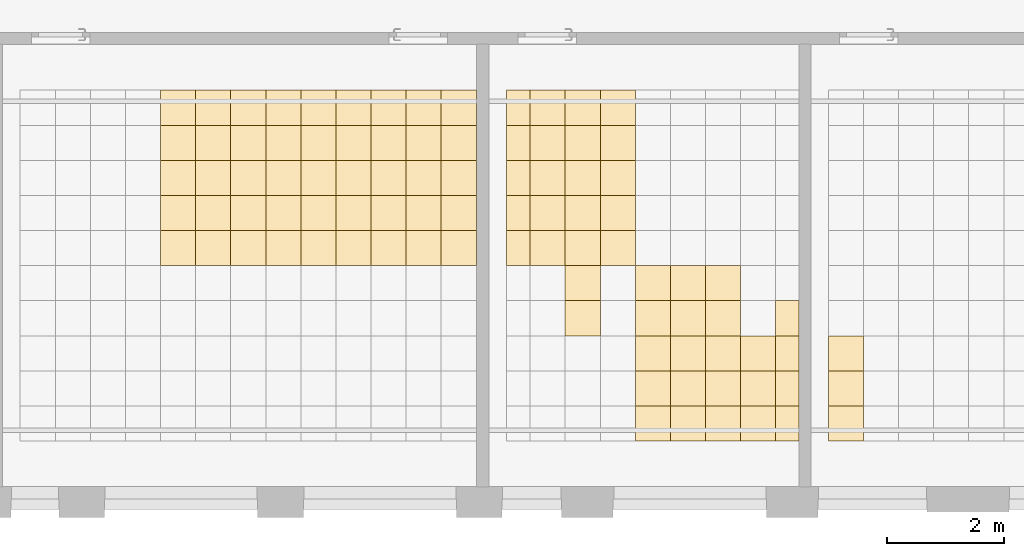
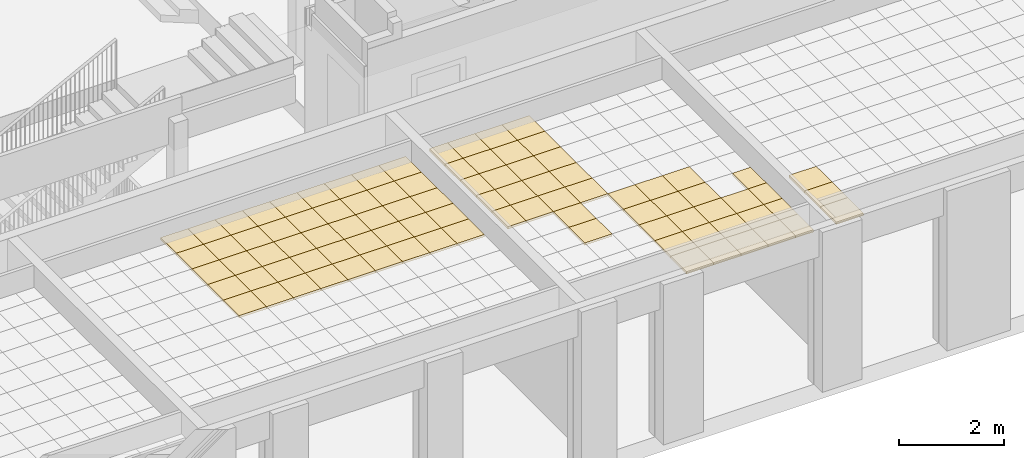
# One storey, part 72 of 79: 92 coverings.
"""IFC2X3 building model written with IfcOpenShell, lengths in millimetres."""

from ifc_helpers import new_model, entity, si_unit, converted_unit, derived_unit, money_unit, direction, frame, origin_with_axes, place, context, subcontext, project, spatial, faceted_brep, material, material_list, type_object, element, save


model = new_model("IFC2X3")

# Units and contexts
model_context = context("Model", 3, precision=0.01, world=origin_with_axes(), true_north=direction((0.0, 1.0)))
body_context = subcontext(model_context, "Body", "Model", "MODEL_VIEW")
ifc_project = project(units=[si_unit("LENGTHUNIT", "METRE", prefix="MILLI"), si_unit("AREAUNIT", "SQUARE_METRE"), si_unit("VOLUMEUNIT", "CUBIC_METRE"), converted_unit("PLANEANGLEUNIT", "DEGREE", entity("IfcPlaneAngleMeasure", 0.0174532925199), si_unit("PLANEANGLEUNIT", "RADIAN"), dimensions=[0, 0, 0, 0, 0, 0, 0]), si_unit("SOLIDANGLEUNIT", "STERADIAN"), money_unit("EUR"), converted_unit("TIMEUNIT", "Year", entity("IfcTimeMeasure", 31556926.0), si_unit("TIMEUNIT", "SECOND"), dimensions=[0, 0, 1, 0, 0, 0, 0]), si_unit("MASSUNIT", "GRAM", prefix="KILO"), si_unit("THERMODYNAMICTEMPERATUREUNIT", "DEGREE_CELSIUS"), si_unit("LUMINOUSINTENSITYUNIT", "LUMEN"), si_unit("ENERGYUNIT", "JOULE", prefix="MEGA"), derived_unit("THERMALCONDUCTANCEUNIT", [(si_unit("POWERUNIT", "WATT"), 1), (si_unit("LENGTHUNIT", "METRE"), -1), (si_unit("THERMODYNAMICTEMPERATUREUNIT", "KELVIN"), -1)]), derived_unit("SPECIFICHEATCAPACITYUNIT", [(si_unit("ENERGYUNIT", "JOULE"), 1), (si_unit("MASSUNIT", "GRAM", prefix="KILO"), -1), (si_unit("THERMODYNAMICTEMPERATUREUNIT", "KELVIN"), -1)]), derived_unit("MASSDENSITYUNIT", [(si_unit("MASSUNIT", "GRAM", prefix="KILO"), 1), (si_unit("VOLUMEUNIT", "CUBIC_METRE"), -1)])], contexts=[model_context])

# Site, building, storey
site_placement = place(None, origin_with_axes())
site = spatial("IfcSite", under=ifc_project, at=site_placement, Name="L.Koidula tn 11b", CompositionType="ELEMENT")
building_placement = place(site_placement, origin_with_axes())
building = spatial("IfcBuilding", under=site, at=building_placement, Name="Rakvere Riigigümnaasium", CompositionType="ELEMENT")
storey_placement = place(building_placement, frame((0.0, 0.0, 3720.0), z_axis=(0.0, 0.0, 1.0), x_axis=(1.0, 0.0, 0.0)))
storey = spatial("IfcBuildingStorey", under=building, at=storey_placement, Name="2.korrus +3,72", CompositionType="ELEMENT", Elevation=3720.0)

# Coverings
ifc_material_1 = material(Name="Karkass")
ifc_material_2 = material(Name="Kipsplaat")
ifc_material_list = material_list([ifc_material_1, ifc_material_2])
covering_type = type_object("IfcCoveringType", Name="SA-LV-Kips-moodul 55", PredefinedType="CEILING")
for number, where, z_axis, x_axis, name in (
    (1, (70449.7152217, 11090.4535941, 2750.0), (0.0, 0.0, 1.0), (1.0, 0.0, 0.0), "L-03"),
    (2, (71649.7151701, 9890.45359412, 2750.0), (0.0, 0.0, 1.0), (1.0, 0.0, 0.0), "L-03"),
    (3, (72849.7151184, 11690.4535941, 2750.0), (0.0, 0.0, 1.0), (1.0, 0.0, 0.0), "L-03"),
    (4, (72849.7151184, 9890.45359412, 2750.0), (0.0, 0.0, 1.0), (1.0, 0.0, 0.0), "L-03"),
    (5, (72849.7151184, 9290.45359412, 2750.0), (0.0, 0.0, 1.0), (1.0, 0.0, 0.0), "L-03"),
    (6, (74049.7150668, 9290.45359412, 2750.0), (0.0, 0.0, 1.0), (1.0, 0.0, 0.0), "L-03"),
    (7, (74049.7150668, 11090.4535941, 2750.0), (0.0, 0.0, 1.0), (1.0, 0.0, 0.0), "L-03"),
    (8, (74049.7150668, 9890.45359412, 2750.0), (0.0, 0.0, 1.0), (1.0, 0.0, 0.0), "L-03"),
    (9, (74049.7150668, 11690.4535941, 2750.0), (0.0, 0.0, 1.0), (1.0, 0.0, 0.0), "L-03"),
    (10, (74049.7150668, 10490.4535941, 2750.0), (0.0, 0.0, 1.0), (1.0, 0.0, 0.0), "L-03"),
):
    element("IfcCovering", number, at=place(storey_placement, frame(where, z_axis=z_axis, x_axis=x_axis)), inside=storey, type_object=covering_type, material=ifc_material_list, Name=name, PredefinedType="CEILING", context=body_context, shape_type="Brep", body=[
        faceted_brep([(600.0, 0.0, 12.5), (600.0, 0.0, 54.5), (0.0, 0.0, 54.5), (0.0, 0.0, 12.5), (600.0, 600.0, 12.5), (600.0, 600.0, 54.5), (0.0, 600.0, 54.5), (0.0, 600.0, 12.5)], [[[0, 1, 2, 3]], [[4, 5, 1, 0]], [[2, 1, 5, 6]], [[3, 2, 6, 7]], [[3, 7, 4, 0]], [[7, 6, 5, 4]]]),
        faceted_brep([(0.0, 0.0, 0.0), (600.0, 0.0, 0.0), (600.0, 0.0, 12.5), (0.0, 0.0, 12.5), (0.0, 600.0, 0.0), (600.0, 600.0, 0.0), (600.0, 600.0, 12.5), (0.0, 600.0, 12.5)], [[[0, 1, 2, 3]], [[0, 4, 5, 1]], [[1, 5, 6, 2]], [[3, 2, 6, 7]], [[4, 0, 3, 7]], [[5, 4, 7, 6]]]),
    ])
covering_1_placement = place(storey_placement, frame((73449.7151184, 11690.4535941, 2750.0), z_axis=(0.0, 0.0, 1.0), x_axis=(1.0, 0.0, 0.0)))
element("IfcCovering", 11, at=covering_1_placement, inside=storey, type_object=covering_type, material=ifc_material_list, Name="L-03", PredefinedType="CEILING", context=body_context, shape_type="Brep", body=[
    faceted_brep([(599.999948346, 0.0, 12.5), (599.999948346, 0.0, 54.5), (0.0, 0.0, 54.5), (0.0, 0.0, 12.5), (599.999948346, 600.0, 12.5), (599.999948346, 600.0, 54.5), (0.0, 600.0, 54.5), (0.0, 600.0, 12.5)], [[[0, 1, 2, 3]], [[4, 5, 1, 0]], [[2, 1, 5, 6]], [[3, 2, 6, 7]], [[3, 7, 4, 0]], [[7, 6, 5, 4]]]),
    faceted_brep([(0.0, 0.0, 0.0), (599.999948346, 0.0, 0.0), (599.999948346, 0.0, 12.5), (0.0, 0.0, 12.5), (0.0, 600.0, 0.0), (599.999948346, 600.0, 0.0), (599.999948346, 600.0, 12.5), (0.0, 600.0, 12.5)], [[[0, 1, 2, 3]], [[0, 4, 5, 1]], [[1, 5, 6, 2]], [[3, 2, 6, 7]], [[4, 0, 3, 7]], [[5, 4, 7, 6]]]),
])
covering_2_placement = place(storey_placement, frame((72849.7151184, 10490.4535941, 2750.0), z_axis=(0.0, 0.0, 1.0), x_axis=(1.0, 0.0, 0.0)))
element("IfcCovering", 12, at=covering_2_placement, inside=storey, type_object=covering_type, material=ifc_material_list, Name="L-03", PredefinedType="CEILING", context=body_context, shape_type="Brep", body=[
    faceted_brep([(600.0, 0.0, 12.5), (600.0, 0.0, 54.5), (0.0, 0.0, 54.5), (0.0, 0.0, 12.5), (600.0, 600.0, 12.5), (600.0, 600.0, 54.5), (0.0, 600.0, 54.5), (0.0, 600.0, 12.5)], [[[0, 1, 2, 3]], [[4, 5, 1, 0]], [[2, 1, 5, 6]], [[3, 2, 6, 7]], [[3, 7, 4, 0]], [[7, 6, 5, 4]]]),
    faceted_brep([(0.0, 0.0, 0.0), (600.0, 0.0, 0.0), (600.0, 0.0, 12.5), (0.0, 0.0, 12.5), (0.0, 600.0, 0.0), (600.0, 600.0, 0.0), (600.0, 600.0, 12.5), (0.0, 600.0, 12.5)], [[[0, 1, 2, 3]], [[0, 4, 5, 1]], [[1, 5, 6, 2]], [[3, 2, 6, 7]], [[4, 0, 3, 7]], [[5, 4, 7, 6]]]),
])
for number, where, z_axis, x_axis, name in (
    (13, (73449.7151184, 9290.45359412, 2750.0), (0.0, 0.0, 1.0), (1.0, 0.0, 0.0), "L-03"),
    (14, (73449.7151184, 9890.45359412, 2750.0), (0.0, 0.0, 1.0), (1.0, 0.0, 0.0), "L-03"),
    (15, (73449.7151184, 11090.4535941, 2750.0), (0.0, 0.0, 1.0), (1.0, 0.0, 0.0), "L-03"),
    (16, (73449.7151184, 10490.4535941, 2750.0), (0.0, 0.0, 1.0), (1.0, 0.0, 0.0), "L-03"),
):
    element("IfcCovering", number, at=place(storey_placement, frame(where, z_axis=z_axis, x_axis=x_axis)), inside=storey, type_object=covering_type, material=ifc_material_list, Name=name, PredefinedType="CEILING", context=body_context, shape_type="Brep", body=[
        faceted_brep([(599.999948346, 0.0, 12.5), (599.999948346, 0.0, 54.5), (0.0, 0.0, 54.5), (0.0, 0.0, 12.5), (599.999948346, 600.0, 12.5), (599.999948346, 600.0, 54.5), (0.0, 600.0, 54.5), (0.0, 600.0, 12.5)], [[[0, 1, 2, 3]], [[4, 5, 1, 0]], [[2, 1, 5, 6]], [[3, 2, 6, 7]], [[3, 7, 4, 0]], [[7, 6, 5, 4]]]),
        faceted_brep([(0.0, 0.0, 0.0), (599.999948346, 0.0, 0.0), (599.999948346, 0.0, 12.5), (0.0, 0.0, 12.5), (0.0, 600.0, 0.0), (599.999948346, 600.0, 0.0), (599.999948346, 600.0, 12.5), (0.0, 600.0, 12.5)], [[[0, 1, 2, 3]], [[0, 4, 5, 1]], [[1, 5, 6, 2]], [[3, 2, 6, 7]], [[4, 0, 3, 7]], [[5, 4, 7, 6]]]),
    ])
for number, where, z_axis, x_axis, name in (
    (17, (71649.7151701, 9290.45359412, 2750.0), (0.0, 0.0, 1.0), (1.0, 0.0, 0.0), "L-03"),
    (18, (72849.7151184, 11090.4535941, 2750.0), (0.0, 0.0, 1.0), (1.0, 0.0, 0.0), "L-03"),
    (19, (71649.7151701, 11690.4535941, 2750.0), (0.0, 0.0, 1.0), (1.0, 0.0, 0.0), "L-03"),
    (20, (71649.7151701, 11090.4535941, 2750.0), (0.0, 0.0, 1.0), (1.0, 0.0, 0.0), "L-03"),
    (21, (71649.7151701, 10490.4535941, 2750.0), (0.0, 0.0, 1.0), (1.0, 0.0, 0.0), "L-03"),
):
    element("IfcCovering", number, at=place(storey_placement, frame(where, z_axis=z_axis, x_axis=x_axis)), inside=storey, type_object=covering_type, material=ifc_material_list, Name=name, PredefinedType="CEILING", context=body_context, shape_type="Brep", body=[
        faceted_brep([(600.0, 0.0, 12.5), (600.0, 0.0, 54.5), (0.0, 0.0, 54.5), (0.0, 0.0, 12.5), (600.0, 600.0, 12.5), (600.0, 600.0, 54.5), (0.0, 600.0, 54.5), (0.0, 600.0, 12.5)], [[[0, 1, 2, 3]], [[4, 5, 1, 0]], [[2, 1, 5, 6]], [[3, 2, 6, 7]], [[3, 7, 4, 0]], [[7, 6, 5, 4]]]),
        faceted_brep([(0.0, 0.0, 0.0), (600.0, 0.0, 0.0), (600.0, 0.0, 12.5), (0.0, 0.0, 12.5), (0.0, 600.0, 0.0), (600.0, 600.0, 0.0), (600.0, 600.0, 12.5), (0.0, 600.0, 12.5)], [[[0, 1, 2, 3]], [[0, 4, 5, 1]], [[1, 5, 6, 2]], [[3, 2, 6, 7]], [[4, 0, 3, 7]], [[5, 4, 7, 6]]]),
    ])
for number, where, z_axis, x_axis, name in (
    (22, (69849.7152734, 11690.4535941, 2750.0), (0.0, 0.0, 1.0), (1.0, 0.0, 0.0), "L-03"),
    (23, (72249.7151701, 11690.4535941, 2750.0), (0.0, 0.0, 1.0), (1.0, 0.0, 0.0), "L-03"),
    (24, (69849.7152734, 9290.45359412, 2750.0), (0.0, 0.0, 1.0), (1.0, 0.0, 0.0), "L-03"),
    (25, (69849.7152734, 9890.45359412, 2750.0), (0.0, 0.0, 1.0), (1.0, 0.0, 0.0), "L-03"),
    (26, (69849.7152734, 11090.4535941, 2750.0), (0.0, 0.0, 1.0), (1.0, 0.0, 0.0), "L-03"),
    (27, (69849.7152734, 10490.4535941, 2750.0), (0.0, 0.0, 1.0), (1.0, 0.0, 0.0), "L-03"),
    (28, (72249.7151701, 9290.45359412, 2750.0), (0.0, 0.0, 1.0), (1.0, 0.0, 0.0), "L-03"),
    (29, (72249.7151701, 9890.45359412, 2750.0), (0.0, 0.0, 1.0), (1.0, 0.0, 0.0), "L-03"),
    (30, (72249.7151701, 10490.4535941, 2750.0), (0.0, 0.0, 1.0), (1.0, 0.0, 0.0), "L-03"),
    (31, (72249.7151701, 11090.4535941, 2750.0), (0.0, 0.0, 1.0), (1.0, 0.0, 0.0), "L-03"),
    (32, (71049.7152217, 11090.4535941, 2750.0), (0.0, 0.0, 1.0), (1.0, 0.0, 0.0), "L-03"),
):
    element("IfcCovering", number, at=place(storey_placement, frame(where, z_axis=z_axis, x_axis=x_axis)), inside=storey, type_object=covering_type, material=ifc_material_list, Name=name, PredefinedType="CEILING", context=body_context, shape_type="Brep", body=[
        faceted_brep([(599.999948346, 0.0, 12.5), (599.999948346, 0.0, 54.5), (0.0, 0.0, 54.5), (0.0, 0.0, 12.5), (599.999948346, 600.0, 12.5), (599.999948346, 600.0, 54.5), (0.0, 600.0, 54.5), (0.0, 600.0, 12.5)], [[[0, 1, 2, 3]], [[4, 5, 1, 0]], [[2, 1, 5, 6]], [[3, 2, 6, 7]], [[3, 7, 4, 0]], [[7, 6, 5, 4]]]),
        faceted_brep([(0.0, 0.0, 0.0), (599.999948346, 0.0, 0.0), (599.999948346, 0.0, 12.5), (0.0, 0.0, 12.5), (0.0, 600.0, 0.0), (599.999948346, 600.0, 0.0), (599.999948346, 600.0, 12.5), (0.0, 600.0, 12.5)], [[[0, 1, 2, 3]], [[0, 4, 5, 1]], [[1, 5, 6, 2]], [[3, 2, 6, 7]], [[4, 0, 3, 7]], [[5, 4, 7, 6]]]),
    ])
for number, where, z_axis, x_axis, name in (
    (33, (70449.7152217, 11690.4535941, 2750.0), (0.0, 0.0, 1.0), (1.0, 0.0, 0.0), "L-03"),
    (34, (70449.7152217, 9890.45359412, 2750.0), (0.0, 0.0, 1.0), (1.0, 0.0, 0.0), "L-03"),
    (35, (70449.7152217, 10490.4535941, 2750.0), (0.0, 0.0, 1.0), (1.0, 0.0, 0.0), "L-03"),
):
    element("IfcCovering", number, at=place(storey_placement, frame(where, z_axis=z_axis, x_axis=x_axis)), inside=storey, type_object=covering_type, material=ifc_material_list, Name=name, PredefinedType="CEILING", context=body_context, shape_type="Brep", body=[
        faceted_brep([(600.0, 0.0, 12.5), (600.0, 0.0, 54.5), (0.0, 0.0, 54.5), (0.0, 0.0, 12.5), (600.0, 600.0, 12.5), (600.0, 600.0, 54.5), (0.0, 600.0, 54.5), (0.0, 600.0, 12.5)], [[[0, 1, 2, 3]], [[4, 5, 1, 0]], [[2, 1, 5, 6]], [[3, 2, 6, 7]], [[3, 7, 4, 0]], [[7, 6, 5, 4]]]),
        faceted_brep([(0.0, 0.0, 0.0), (600.0, 0.0, 0.0), (600.0, 0.0, 12.5), (0.0, 0.0, 12.5), (0.0, 600.0, 0.0), (600.0, 600.0, 0.0), (600.0, 600.0, 12.5), (0.0, 600.0, 12.5)], [[[0, 1, 2, 3]], [[0, 4, 5, 1]], [[1, 5, 6, 2]], [[3, 2, 6, 7]], [[4, 0, 3, 7]], [[5, 4, 7, 6]]]),
    ])
covering_3_placement = place(storey_placement, frame((71049.7152217, 10490.4535941, 2750.0), z_axis=(0.0, 0.0, 1.0), x_axis=(1.0, 0.0, 0.0)))
element("IfcCovering", 36, at=covering_3_placement, inside=storey, type_object=covering_type, material=ifc_material_list, Name="L-03", PredefinedType="CEILING", context=body_context, shape_type="Brep", body=[
    faceted_brep([(599.999948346, 0.0, 12.5), (599.999948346, 0.0, 54.5), (0.0, 0.0, 54.5), (0.0, 0.0, 12.5), (599.999948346, 600.0, 12.5), (599.999948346, 600.0, 54.5), (0.0, 600.0, 54.5), (0.0, 600.0, 12.5)], [[[0, 1, 2, 3]], [[4, 5, 1, 0]], [[2, 1, 5, 6]], [[3, 2, 6, 7]], [[3, 7, 4, 0]], [[7, 6, 5, 4]]]),
    faceted_brep([(0.0, 0.0, 0.0), (599.999948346, 0.0, 0.0), (599.999948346, 0.0, 12.5), (0.0, 0.0, 12.5), (0.0, 600.0, 0.0), (599.999948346, 600.0, 0.0), (599.999948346, 600.0, 12.5), (0.0, 600.0, 12.5)], [[[0, 1, 2, 3]], [[0, 4, 5, 1]], [[1, 5, 6, 2]], [[3, 2, 6, 7]], [[4, 0, 3, 7]], [[5, 4, 7, 6]]]),
])
for number, where, z_axis, x_axis, name in (
    (37, (70449.7152217, 9290.45359412, 2750.0), (0.0, 0.0, 1.0), (1.0, 0.0, 0.0), "L-03"),
    (38, (69249.7152734, 11690.4535941, 2750.0), (0.0, 0.0, 1.0), (1.0, 0.0, 0.0), "L-03"),
):
    element("IfcCovering", number, at=place(storey_placement, frame(where, z_axis=z_axis, x_axis=x_axis)), inside=storey, type_object=covering_type, material=ifc_material_list, Name=name, PredefinedType="CEILING", context=body_context, shape_type="Brep", body=[
        faceted_brep([(600.0, 0.0, 12.5), (600.0, 0.0, 54.5), (0.0, 0.0, 54.5), (0.0, 0.0, 12.5), (600.0, 600.0, 12.5), (600.0, 600.0, 54.5), (0.0, 600.0, 54.5), (0.0, 600.0, 12.5)], [[[0, 1, 2, 3]], [[4, 5, 1, 0]], [[2, 1, 5, 6]], [[3, 2, 6, 7]], [[3, 7, 4, 0]], [[7, 6, 5, 4]]]),
        faceted_brep([(0.0, 0.0, 0.0), (600.0, 0.0, 0.0), (600.0, 0.0, 12.5), (0.0, 0.0, 12.5), (0.0, 600.0, 0.0), (600.0, 600.0, 0.0), (600.0, 600.0, 12.5), (0.0, 600.0, 12.5)], [[[0, 1, 2, 3]], [[0, 4, 5, 1]], [[1, 5, 6, 2]], [[3, 2, 6, 7]], [[4, 0, 3, 7]], [[5, 4, 7, 6]]]),
    ])
covering_4_placement = place(storey_placement, frame((71049.7152217, 9290.45359412, 2750.0), z_axis=(0.0, 0.0, 1.0), x_axis=(1.0, 0.0, 0.0)))
element("IfcCovering", 39, at=covering_4_placement, inside=storey, type_object=covering_type, material=ifc_material_list, Name="L-03", PredefinedType="CEILING", context=body_context, shape_type="Brep", body=[
    faceted_brep([(599.999948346, 0.0, 12.5), (599.999948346, 0.0, 54.5), (0.0, 0.0, 54.5), (0.0, 0.0, 12.5), (599.999948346, 600.0, 12.5), (599.999948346, 600.0, 54.5), (0.0, 600.0, 54.5), (0.0, 600.0, 12.5)], [[[0, 1, 2, 3]], [[4, 5, 1, 0]], [[2, 1, 5, 6]], [[3, 2, 6, 7]], [[3, 7, 4, 0]], [[7, 6, 5, 4]]]),
    faceted_brep([(0.0, 0.0, 0.0), (599.999948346, 0.0, 0.0), (599.999948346, 0.0, 12.5), (0.0, 0.0, 12.5), (0.0, 600.0, 0.0), (599.999948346, 600.0, 0.0), (599.999948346, 600.0, 12.5), (0.0, 600.0, 12.5)], [[[0, 1, 2, 3]], [[0, 4, 5, 1]], [[1, 5, 6, 2]], [[3, 2, 6, 7]], [[4, 0, 3, 7]], [[5, 4, 7, 6]]]),
])
for number, where, z_axis, x_axis, name in (
    (40, (69249.7152734, 11090.4535941, 2750.0), (0.0, 0.0, 1.0), (1.0, 0.0, 0.0), "L-03"),
    (41, (69249.7152734, 10490.4535941, 2750.0), (0.0, 0.0, 1.0), (1.0, 0.0, 0.0), "L-03"),
    (42, (69249.7152734, 9890.45359412, 2750.0), (0.0, 0.0, 1.0), (1.0, 0.0, 0.0), "L-03"),
    (43, (69249.7152734, 9290.45359412, 2750.0), (0.0, 0.0, 1.0), (1.0, 0.0, 0.0), "L-03"),
):
    element("IfcCovering", number, at=place(storey_placement, frame(where, z_axis=z_axis, x_axis=x_axis)), inside=storey, type_object=covering_type, material=ifc_material_list, Name=name, PredefinedType="CEILING", context=body_context, shape_type="Brep", body=[
        faceted_brep([(600.0, 0.0, 12.5), (600.0, 0.0, 54.5), (0.0, 0.0, 54.5), (0.0, 0.0, 12.5), (600.0, 600.0, 12.5), (600.0, 600.0, 54.5), (0.0, 600.0, 54.5), (0.0, 600.0, 12.5)], [[[0, 1, 2, 3]], [[4, 5, 1, 0]], [[2, 1, 5, 6]], [[3, 2, 6, 7]], [[3, 7, 4, 0]], [[7, 6, 5, 4]]]),
        faceted_brep([(0.0, 0.0, 0.0), (600.0, 0.0, 0.0), (600.0, 0.0, 12.5), (0.0, 0.0, 12.5), (0.0, 600.0, 0.0), (600.0, 600.0, 0.0), (600.0, 600.0, 12.5), (0.0, 600.0, 12.5)], [[[0, 1, 2, 3]], [[0, 4, 5, 1]], [[1, 5, 6, 2]], [[3, 2, 6, 7]], [[4, 0, 3, 7]], [[5, 4, 7, 6]]]),
    ])
for number, where, z_axis, x_axis, name in (
    (44, (71049.7152217, 9890.45359412, 2750.0), (0.0, 0.0, 1.0), (1.0, 0.0, 0.0), "L-03"),
    (45, (71049.7152217, 11690.4535941, 2750.0), (0.0, 0.0, 1.0), (1.0, 0.0, 0.0), "L-03"),
):
    element("IfcCovering", number, at=place(storey_placement, frame(where, z_axis=z_axis, x_axis=x_axis)), inside=storey, type_object=covering_type, material=ifc_material_list, Name=name, PredefinedType="CEILING", context=body_context, shape_type="Brep", body=[
        faceted_brep([(599.999948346, 0.0, 12.5), (599.999948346, 0.0, 54.5), (0.0, 0.0, 54.5), (0.0, 0.0, 12.5), (599.999948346, 600.0, 12.5), (599.999948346, 600.0, 54.5), (0.0, 600.0, 54.5), (0.0, 600.0, 12.5)], [[[0, 1, 2, 3]], [[4, 5, 1, 0]], [[2, 1, 5, 6]], [[3, 2, 6, 7]], [[3, 7, 4, 0]], [[7, 6, 5, 4]]]),
        faceted_brep([(0.0, 0.0, 0.0), (599.999948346, 0.0, 0.0), (599.999948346, 0.0, 12.5), (0.0, 0.0, 12.5), (0.0, 600.0, 0.0), (599.999948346, 600.0, 0.0), (599.999948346, 600.0, 12.5), (0.0, 600.0, 12.5)], [[[0, 1, 2, 3]], [[0, 4, 5, 1]], [[1, 5, 6, 2]], [[3, 2, 6, 7]], [[4, 0, 3, 7]], [[5, 4, 7, 6]]]),
    ])
for number, where, z_axis, x_axis, name in (
    (46, (79769.7175077, 8090.45359412, 2750.0), (0.0, 0.0, 1.0), (1.0, 0.0, 0.0), "L-03"),
    (47, (79769.7175077, 7490.45359412, 2750.0), (0.0, 0.0, 1.0), (1.0, 0.0, 0.0), "L-03"),
):
    element("IfcCovering", number, at=place(storey_placement, frame(where, z_axis=z_axis, x_axis=x_axis)), inside=storey, type_object=covering_type, material=ifc_material_list, Name=name, PredefinedType="CEILING", context=body_context, shape_type="Brep", body=[
        faceted_brep([(399.999039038, 0.0, 12.5), (399.999039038, 0.0, 54.5), (0.0, 0.0, 54.5), (0.0, 0.0, 12.5), (399.999039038, 600.0, 12.5), (399.999039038, 600.0, 54.5), (0.0, 600.0, 54.5), (0.0, 600.0, 12.5)], [[[0, 1, 2, 3]], [[4, 5, 1, 0]], [[2, 1, 5, 6]], [[3, 2, 6, 7]], [[3, 7, 4, 0]], [[7, 6, 5, 4]]]),
        faceted_brep([(0.0, 0.0, 0.0), (399.999039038, 0.0, 0.0), (399.999039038, 0.0, 12.5), (0.0, 0.0, 12.5), (0.0, 600.0, 0.0), (399.999039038, 600.0, 0.0), (399.999039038, 600.0, 12.5), (0.0, 600.0, 12.5)], [[[0, 1, 2, 3]], [[0, 4, 5, 1]], [[1, 5, 6, 2]], [[3, 2, 6, 7]], [[4, 0, 3, 7]], [[5, 4, 7, 6]]]),
    ])
for number, where, z_axis, x_axis, name in (
    (48, (77969.717611, 7490.45359412, 2750.0), (0.0, 0.0, 1.0), (1.0, 0.0, 0.0), "L-03"),
    (49, (77969.717611, 8090.45359412, 2750.0), (0.0, 0.0, 1.0), (1.0, 0.0, 0.0), "L-03"),
    (50, (77969.717611, 8690.45359412, 2750.0), (0.0, 0.0, 1.0), (1.0, 0.0, 0.0), "L-03"),
    (51, (77969.717611, 6890.45359412, 2750.0), (0.0, 0.0, 1.0), (1.0, 0.0, 0.0), "L-03"),
    (52, (77969.717611, 6290.45359412, 2750.0), (0.0, 0.0, 1.0), (1.0, 0.0, 0.0), "L-03"),
):
    element("IfcCovering", number, at=place(storey_placement, frame(where, z_axis=z_axis, x_axis=x_axis)), inside=storey, type_object=covering_type, material=ifc_material_list, Name=name, PredefinedType="CEILING", context=body_context, shape_type="Brep", body=[
        faceted_brep([(599.999948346, 0.0, 12.5), (599.999948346, 0.0, 54.5), (0.0, 0.0, 54.5), (0.0, 0.0, 12.5), (599.999948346, 600.0, 12.5), (599.999948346, 600.0, 54.5), (0.0, 600.0, 54.5), (0.0, 600.0, 12.5)], [[[0, 1, 2, 3]], [[4, 5, 1, 0]], [[2, 1, 5, 6]], [[3, 2, 6, 7]], [[3, 7, 4, 0]], [[7, 6, 5, 4]]]),
        faceted_brep([(0.0, 0.0, 0.0), (599.999948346, 0.0, 0.0), (599.999948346, 0.0, 12.5), (0.0, 0.0, 12.5), (0.0, 600.0, 0.0), (599.999948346, 600.0, 0.0), (599.999948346, 600.0, 12.5), (0.0, 600.0, 12.5)], [[[0, 1, 2, 3]], [[0, 4, 5, 1]], [[1, 5, 6, 2]], [[3, 2, 6, 7]], [[4, 0, 3, 7]], [[5, 4, 7, 6]]]),
    ])
for number, where, z_axis, x_axis, name in (
    (53, (78569.7175594, 8690.45359412, 2750.0), (0.0, 0.0, 1.0), (1.0, 0.0, 0.0), "L-03"),
    (54, (78569.7175594, 8090.45359412, 2750.0), (0.0, 0.0, 1.0), (1.0, 0.0, 0.0), "L-03"),
    (55, (78569.7175594, 7490.45359412, 2750.0), (0.0, 0.0, 1.0), (1.0, 0.0, 0.0), "L-03"),
):
    element("IfcCovering", number, at=place(storey_placement, frame(where, z_axis=z_axis, x_axis=x_axis)), inside=storey, type_object=covering_type, material=ifc_material_list, Name=name, PredefinedType="CEILING", context=body_context, shape_type="Brep", body=[
        faceted_brep([(600.0, 0.0, 12.5), (600.0, 0.0, 54.5), (0.0, 0.0, 54.5), (0.0, 0.0, 12.5), (600.0, 600.0, 12.5), (600.0, 600.0, 54.5), (0.0, 600.0, 54.5), (0.0, 600.0, 12.5)], [[[0, 1, 2, 3]], [[4, 5, 1, 0]], [[2, 1, 5, 6]], [[3, 2, 6, 7]], [[3, 7, 4, 0]], [[7, 6, 5, 4]]]),
        faceted_brep([(0.0, 0.0, 0.0), (600.0, 0.0, 0.0), (600.0, 0.0, 12.5), (0.0, 0.0, 12.5), (0.0, 600.0, 0.0), (600.0, 600.0, 0.0), (600.0, 600.0, 12.5), (0.0, 600.0, 12.5)], [[[0, 1, 2, 3]], [[0, 4, 5, 1]], [[1, 5, 6, 2]], [[3, 2, 6, 7]], [[4, 0, 3, 7]], [[5, 4, 7, 6]]]),
    ])
for number, where, z_axis, x_axis, name in (
    (56, (79169.7175594, 6890.45359412, 2750.0), (0.0, 0.0, 1.0), (1.0, 0.0, 0.0), "L-03"),
    (57, (79169.7175594, 6290.45359412, 2750.0), (0.0, 0.0, 1.0), (1.0, 0.0, 0.0), "L-03"),
    (58, (79169.7175594, 7490.45359412, 2750.0), (0.0, 0.0, 1.0), (1.0, 0.0, 0.0), "L-03"),
):
    element("IfcCovering", number, at=place(storey_placement, frame(where, z_axis=z_axis, x_axis=x_axis)), inside=storey, type_object=covering_type, material=ifc_material_list, Name=name, PredefinedType="CEILING", context=body_context, shape_type="Brep", body=[
        faceted_brep([(599.999948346, 0.0, 12.5), (599.999948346, 0.0, 54.5), (0.0, 0.0, 54.5), (0.0, 0.0, 12.5), (599.999948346, 600.0, 12.5), (599.999948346, 600.0, 54.5), (0.0, 600.0, 54.5), (0.0, 600.0, 12.5)], [[[0, 1, 2, 3]], [[4, 5, 1, 0]], [[2, 1, 5, 6]], [[3, 2, 6, 7]], [[3, 7, 4, 0]], [[7, 6, 5, 4]]]),
        faceted_brep([(0.0, 0.0, 0.0), (599.999948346, 0.0, 0.0), (599.999948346, 0.0, 12.5), (0.0, 0.0, 12.5), (0.0, 600.0, 0.0), (599.999948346, 600.0, 0.0), (599.999948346, 600.0, 12.5), (0.0, 600.0, 12.5)], [[[0, 1, 2, 3]], [[0, 4, 5, 1]], [[1, 5, 6, 2]], [[3, 2, 6, 7]], [[4, 0, 3, 7]], [[5, 4, 7, 6]]]),
    ])
for number, where, z_axis, x_axis, name in (
    (59, (78569.7175594, 6290.45359412, 2750.0), (0.0, 0.0, 1.0), (1.0, 0.0, 0.0), "L-03"),
    (60, (78569.7175594, 6890.45359412, 2750.0), (0.0, 0.0, 1.0), (1.0, 0.0, 0.0), "L-03"),
    (61, (77369.717611, 6890.45359412, 2750.0), (0.0, 0.0, 1.0), (1.0, 0.0, 0.0), "L-03"),
    (62, (77369.717611, 6290.45359412, 2750.0), (0.0, 0.0, 1.0), (1.0, 0.0, 0.0), "L-03"),
):
    element("IfcCovering", number, at=place(storey_placement, frame(where, z_axis=z_axis, x_axis=x_axis)), inside=storey, type_object=covering_type, material=ifc_material_list, Name=name, PredefinedType="CEILING", context=body_context, shape_type="Brep", body=[
        faceted_brep([(600.0, 0.0, 12.5), (600.0, 0.0, 54.5), (0.0, 0.0, 54.5), (0.0, 0.0, 12.5), (600.0, 600.0, 12.5), (600.0, 600.0, 54.5), (0.0, 600.0, 54.5), (0.0, 600.0, 12.5)], [[[0, 1, 2, 3]], [[4, 5, 1, 0]], [[2, 1, 5, 6]], [[3, 2, 6, 7]], [[3, 7, 4, 0]], [[7, 6, 5, 4]]]),
        faceted_brep([(0.0, 0.0, 0.0), (600.0, 0.0, 0.0), (600.0, 0.0, 12.5), (0.0, 0.0, 12.5), (0.0, 600.0, 0.0), (600.0, 600.0, 0.0), (600.0, 600.0, 12.5), (0.0, 600.0, 12.5)], [[[0, 1, 2, 3]], [[0, 4, 5, 1]], [[1, 5, 6, 2]], [[3, 2, 6, 7]], [[4, 0, 3, 7]], [[5, 4, 7, 6]]]),
    ])
for number, where, z_axis, x_axis, name in (
    (63, (79769.7175077, 6290.45359412, 2750.0), (0.0, 0.0, 1.0), (1.0, 0.0, 0.0), "L-03"),
    (64, (79769.7175077, 6890.45359412, 2750.0), (0.0, 0.0, 1.0), (1.0, 0.0, 0.0), "L-03"),
):
    element("IfcCovering", number, at=place(storey_placement, frame(where, z_axis=z_axis, x_axis=x_axis)), inside=storey, type_object=covering_type, material=ifc_material_list, Name=name, PredefinedType="CEILING", context=body_context, shape_type="Brep", body=[
        faceted_brep([(399.999039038, 0.0, 12.5), (399.999039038, 0.0, 54.5), (0.0, 0.0, 54.5), (0.0, 0.0, 12.5), (399.999039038, 600.0, 12.5), (399.999039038, 600.0, 54.5), (0.0, 600.0, 54.5), (0.0, 600.0, 12.5)], [[[0, 1, 2, 3]], [[4, 5, 1, 0]], [[2, 1, 5, 6]], [[3, 2, 6, 7]], [[3, 7, 4, 0]], [[7, 6, 5, 4]]]),
        faceted_brep([(0.0, 0.0, 0.0), (399.999039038, 0.0, 0.0), (399.999039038, 0.0, 12.5), (0.0, 0.0, 12.5), (0.0, 600.0, 0.0), (399.999039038, 600.0, 0.0), (399.999039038, 600.0, 12.5), (0.0, 600.0, 12.5)], [[[0, 1, 2, 3]], [[0, 4, 5, 1]], [[1, 5, 6, 2]], [[3, 2, 6, 7]], [[4, 0, 3, 7]], [[5, 4, 7, 6]]]),
    ])
for number, where, z_axis, x_axis, name in (
    (65, (77369.717611, 7490.45359412, 2750.0), (0.0, 0.0, 1.0), (1.0, 0.0, 0.0), "L-03"),
    (66, (77369.717611, 8090.45359412, 2750.0), (0.0, 0.0, 1.0), (1.0, 0.0, 0.0), "L-03"),
    (67, (77369.717611, 8690.45359412, 2750.0), (0.0, 0.0, 1.0), (1.0, 0.0, 0.0), "L-03"),
):
    element("IfcCovering", number, at=place(storey_placement, frame(where, z_axis=z_axis, x_axis=x_axis)), inside=storey, type_object=covering_type, material=ifc_material_list, Name=name, PredefinedType="CEILING", context=body_context, shape_type="Brep", body=[
        faceted_brep([(600.0, 0.0, 12.5), (600.0, 0.0, 54.5), (0.0, 0.0, 54.5), (0.0, 0.0, 12.5), (600.0, 600.0, 12.5), (600.0, 600.0, 54.5), (0.0, 600.0, 54.5), (0.0, 600.0, 12.5)], [[[0, 1, 2, 3]], [[4, 5, 1, 0]], [[2, 1, 5, 6]], [[3, 2, 6, 7]], [[3, 7, 4, 0]], [[7, 6, 5, 4]]]),
        faceted_brep([(0.0, 0.0, 0.0), (600.0, 0.0, 0.0), (600.0, 0.0, 12.5), (0.0, 0.0, 12.5), (0.0, 600.0, 0.0), (600.0, 600.0, 0.0), (600.0, 600.0, 12.5), (0.0, 600.0, 12.5)], [[[0, 1, 2, 3]], [[0, 4, 5, 1]], [[1, 5, 6, 2]], [[3, 2, 6, 7]], [[4, 0, 3, 7]], [[5, 4, 7, 6]]]),
    ])
for number, where, z_axis, x_axis, name in (
    (68, (75569.7177143, 11090.4535941, 2750.0), (0.0, 0.0, 1.0), (1.0, 0.0, 0.0), "L-03"),
    (69, (75569.7177143, 10490.4535941, 2750.0), (0.0, 0.0, 1.0), (1.0, 0.0, 0.0), "L-03"),
    (70, (75569.7177143, 9890.45359412, 2750.0), (0.0, 0.0, 1.0), (1.0, 0.0, 0.0), "L-03"),
    (71, (75569.7177143, 9290.45359412, 2750.0), (0.0, 0.0, 1.0), (1.0, 0.0, 0.0), "L-03"),
    (72, (75569.7177143, 11690.4535941, 2750.0), (0.0, 0.0, 1.0), (1.0, 0.0, 0.0), "L-03"),
):
    element("IfcCovering", number, at=place(storey_placement, frame(where, z_axis=z_axis, x_axis=x_axis)), inside=storey, type_object=covering_type, material=ifc_material_list, Name=name, PredefinedType="CEILING", context=body_context, shape_type="Brep", body=[
        faceted_brep([(599.999948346, 0.0, 12.5), (599.999948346, 0.0, 54.5), (0.0, 0.0, 54.5), (0.0, 0.0, 12.5), (599.999948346, 600.0, 12.5), (599.999948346, 600.0, 54.5), (0.0, 600.0, 54.5), (0.0, 600.0, 12.5)], [[[0, 1, 2, 3]], [[4, 5, 1, 0]], [[2, 1, 5, 6]], [[3, 2, 6, 7]], [[3, 7, 4, 0]], [[7, 6, 5, 4]]]),
        faceted_brep([(0.0, 0.0, 0.0), (599.999948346, 0.0, 0.0), (599.999948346, 0.0, 12.5), (0.0, 0.0, 12.5), (0.0, 600.0, 0.0), (599.999948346, 600.0, 0.0), (599.999948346, 600.0, 12.5), (0.0, 600.0, 12.5)], [[[0, 1, 2, 3]], [[0, 4, 5, 1]], [[1, 5, 6, 2]], [[3, 2, 6, 7]], [[4, 0, 3, 7]], [[5, 4, 7, 6]]]),
    ])
for number, where, z_axis, x_axis, name in (
    (73, (75169.7165468, 9290.45359412, 2750.0), (0.0, 0.0, 1.0), (1.0, 0.0, 0.0), "L-03"),
    (74, (75169.7165468, 9890.45359412, 2750.0), (0.0, 0.0, 1.0), (1.0, 0.0, 0.0), "L-03"),
    (75, (75169.7165468, 10490.4535941, 2750.0), (0.0, 0.0, 1.0), (1.0, 0.0, 0.0), "L-03"),
    (76, (75169.7165468, 11090.4535941, 2750.0), (0.0, 0.0, 1.0), (1.0, 0.0, 0.0), "L-03"),
    (77, (75169.7165468, 11690.4535941, 2750.0), (0.0, 0.0, 1.0), (1.0, 0.0, 0.0), "L-03"),
):
    element("IfcCovering", number, at=place(storey_placement, frame(where, z_axis=z_axis, x_axis=x_axis)), inside=storey, type_object=covering_type, material=ifc_material_list, Name=name, PredefinedType="CEILING", context=body_context, shape_type="Brep", body=[
        faceted_brep([(400.001167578, 0.0, 12.5), (400.001167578, 0.0, 54.5), (0.0, 0.0, 54.5), (0.0, 0.0, 12.5), (400.001167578, 600.0, 12.5), (400.001167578, 600.0, 54.5), (0.0, 600.0, 54.5), (0.0, 600.0, 12.5)], [[[0, 1, 2, 3]], [[4, 5, 1, 0]], [[2, 1, 5, 6]], [[3, 2, 6, 7]], [[3, 7, 4, 0]], [[7, 6, 5, 4]]]),
        faceted_brep([(0.0, 0.0, 0.0), (400.001167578, 0.0, 0.0), (400.001167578, 0.0, 12.5), (0.0, 0.0, 12.5), (0.0, 600.0, 0.0), (400.001167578, 600.0, 0.0), (400.001167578, 600.0, 12.5), (0.0, 600.0, 12.5)], [[[0, 1, 2, 3]], [[0, 4, 5, 1]], [[1, 5, 6, 2]], [[3, 2, 6, 7]], [[4, 0, 3, 7]], [[5, 4, 7, 6]]]),
    ])
for number, where, z_axis, x_axis, name in (
    (78, (76769.7176627, 11090.4535941, 2750.0), (0.0, 0.0, 1.0), (1.0, 0.0, 0.0), "L-03"),
    (79, (76769.7176627, 10490.4535941, 2750.0), (0.0, 0.0, 1.0), (1.0, 0.0, 0.0), "L-03"),
    (80, (76769.7176627, 9890.45359412, 2750.0), (0.0, 0.0, 1.0), (1.0, 0.0, 0.0), "L-03"),
    (81, (76769.7176627, 9290.45359412, 2750.0), (0.0, 0.0, 1.0), (1.0, 0.0, 0.0), "L-03"),
    (82, (76769.7176627, 11690.4535941, 2750.0), (0.0, 0.0, 1.0), (1.0, 0.0, 0.0), "L-03"),
):
    element("IfcCovering", number, at=place(storey_placement, frame(where, z_axis=z_axis, x_axis=x_axis)), inside=storey, type_object=covering_type, material=ifc_material_list, Name=name, PredefinedType="CEILING", context=body_context, shape_type="Brep", body=[
        faceted_brep([(599.999948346, 0.0, 12.5), (599.999948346, 0.0, 54.5), (0.0, 0.0, 54.5), (0.0, 0.0, 12.5), (599.999948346, 600.0, 12.5), (599.999948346, 600.0, 54.5), (0.0, 600.0, 54.5), (0.0, 600.0, 12.5)], [[[0, 1, 2, 3]], [[4, 5, 1, 0]], [[2, 1, 5, 6]], [[3, 2, 6, 7]], [[3, 7, 4, 0]], [[7, 6, 5, 4]]]),
        faceted_brep([(0.0, 0.0, 0.0), (599.999948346, 0.0, 0.0), (599.999948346, 0.0, 12.5), (0.0, 0.0, 12.5), (0.0, 600.0, 0.0), (599.999948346, 600.0, 0.0), (599.999948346, 600.0, 12.5), (0.0, 600.0, 12.5)], [[[0, 1, 2, 3]], [[0, 4, 5, 1]], [[1, 5, 6, 2]], [[3, 2, 6, 7]], [[4, 0, 3, 7]], [[5, 4, 7, 6]]]),
    ])
for number, where, z_axis, x_axis, name in (
    (83, (76169.7176627, 8090.45359412, 2750.0), (0.0, 0.0, 1.0), (1.0, 0.0, 0.0), "L-03"),
    (84, (76169.7176627, 8690.45359412, 2750.0), (0.0, 0.0, 1.0), (1.0, 0.0, 0.0), "L-03"),
    (85, (76169.7176627, 9290.45359412, 2750.0), (0.0, 0.0, 1.0), (1.0, 0.0, 0.0), "L-03"),
    (86, (76169.7176627, 9890.45359412, 2750.0), (0.0, 0.0, 1.0), (1.0, 0.0, 0.0), "L-03"),
    (87, (76169.7176627, 10490.4535941, 2750.0), (0.0, 0.0, 1.0), (1.0, 0.0, 0.0), "L-03"),
    (88, (76169.7176627, 11090.4535941, 2750.0), (0.0, 0.0, 1.0), (1.0, 0.0, 0.0), "L-03"),
    (89, (76169.7176627, 11690.4535941, 2750.0), (0.0, 0.0, 1.0), (1.0, 0.0, 0.0), "L-03"),
):
    element("IfcCovering", number, at=place(storey_placement, frame(where, z_axis=z_axis, x_axis=x_axis)), inside=storey, type_object=covering_type, material=ifc_material_list, Name=name, PredefinedType="CEILING", context=body_context, shape_type="Brep", body=[
        faceted_brep([(600.0, 0.0, 12.5), (600.0, 0.0, 54.5), (0.0, 0.0, 54.5), (0.0, 0.0, 12.5), (600.0, 600.0, 12.5), (600.0, 600.0, 54.5), (0.0, 600.0, 54.5), (0.0, 600.0, 12.5)], [[[0, 1, 2, 3]], [[4, 5, 1, 0]], [[2, 1, 5, 6]], [[3, 2, 6, 7]], [[3, 7, 4, 0]], [[7, 6, 5, 4]]]),
        faceted_brep([(0.0, 0.0, 0.0), (600.0, 0.0, 0.0), (600.0, 0.0, 12.5), (0.0, 0.0, 12.5), (0.0, 600.0, 0.0), (600.0, 600.0, 0.0), (600.0, 600.0, 12.5), (0.0, 600.0, 12.5)], [[[0, 1, 2, 3]], [[0, 4, 5, 1]], [[1, 5, 6, 2]], [[3, 2, 6, 7]], [[4, 0, 3, 7]], [[5, 4, 7, 6]]]),
    ])
for number, where, z_axis, x_axis, name in (
    (90, (80669.7443135, 7490.45359412, 2750.0), (0.0, 0.0, 1.0), (1.0, 0.0, 0.0), "L-03"),
    (91, (80669.7443135, 6890.45359412, 2750.0), (0.0, 0.0, 1.0), (1.0, 0.0, 0.0), "L-03"),
    (92, (80669.7443135, 6290.45359412, 2750.0), (0.0, 0.0, 1.0), (1.0, 0.0, 0.0), "L-03"),
):
    element("IfcCovering", number, at=place(storey_placement, frame(where, z_axis=z_axis, x_axis=x_axis)), inside=storey, type_object=covering_type, material=ifc_material_list, Name=name, PredefinedType="CEILING", context=body_context, shape_type="Brep", body=[
        faceted_brep([(600.000452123, 0.0, 12.5), (600.000452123, 0.0, 54.5), (0.0, 0.0, 54.5), (0.0, 0.0, 12.5), (600.000452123, 600.0, 12.5), (600.000452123, 600.0, 54.5), (0.0, 600.0, 54.5), (0.0, 600.0, 12.5)], [[[0, 1, 2, 3]], [[4, 5, 1, 0]], [[2, 1, 5, 6]], [[3, 2, 6, 7]], [[3, 7, 4, 0]], [[7, 6, 5, 4]]]),
        faceted_brep([(0.0, 0.0, 0.0), (600.000452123, 0.0, 0.0), (600.000452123, 0.0, 12.5), (0.0, 0.0, 12.5), (0.0, 600.0, 0.0), (600.000452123, 600.0, 0.0), (600.000452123, 600.0, 12.5), (0.0, 600.0, 12.5)], [[[0, 1, 2, 3]], [[0, 4, 5, 1]], [[1, 5, 6, 2]], [[3, 2, 6, 7]], [[4, 0, 3, 7]], [[5, 4, 7, 6]]]),
    ])

save(model, "model.ifc")
